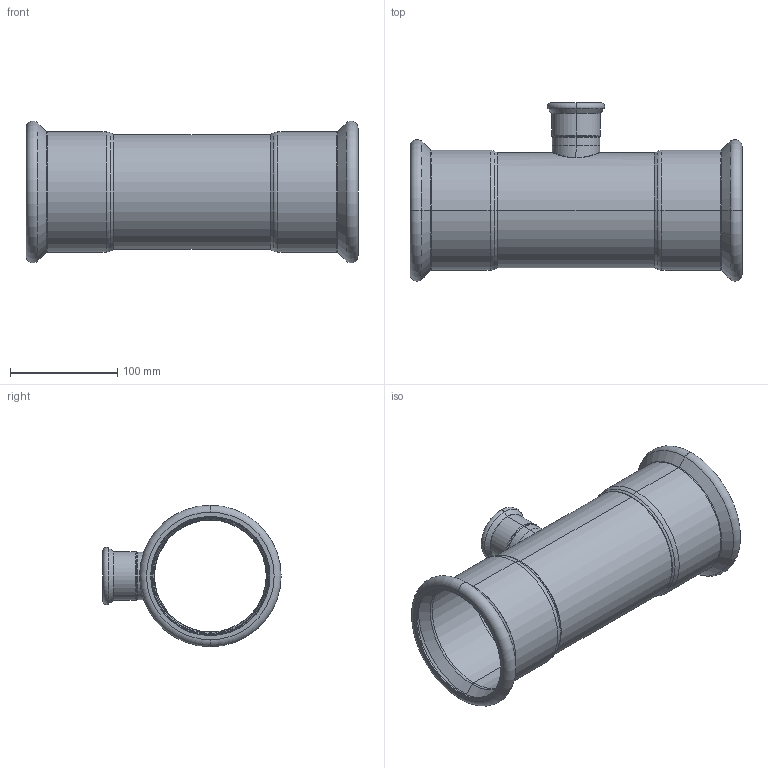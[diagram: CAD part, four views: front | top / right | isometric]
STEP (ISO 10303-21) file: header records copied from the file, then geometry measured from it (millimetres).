
FILE_DESCRIPTION (( 'STEP AP203' ), '1' );
FILE_NAME ('GDA5226.STEP', '2019-01-12T06:17:58', ( '' ), ( '' ), 'SwSTEP 2.0', 'SolidWorks 2015', '' );
FILE_SCHEMA (( 'CONFIG_CONTROL_DESIGN' ));
Length unit declared in the file: millimetre
Products named in the file (3): GDA5226; T-ｉ-01-42; T(R)-Ⅰ-108×42''
Assembly tree (2 placements, depth 2):
  GDA5226
    T(R)-Ⅰ-108×42''
    T-ｉ-01-42
Bounding box: 309 x 165.89 x 131.78 mm (x, y, z)
Volume: 181162.5 mm3; surface area: 242446.3 mm2
Topology: 2 solids, 2 shells, 114 faces, 234 edges, 128 vertices
Faces by surface type: torus 48, cylinder 30, cone 24, plane 8, bspline 4
Entity records: 4477 total; most frequent: CARTESIAN_POINT 1687, DIRECTION 620, ORIENTED_EDGE 468, AXIS2_PLACEMENT_3D 283, EDGE_CURVE 234, CIRCLE 168, VERTEX_POINT 128, EDGE_LOOP 124
